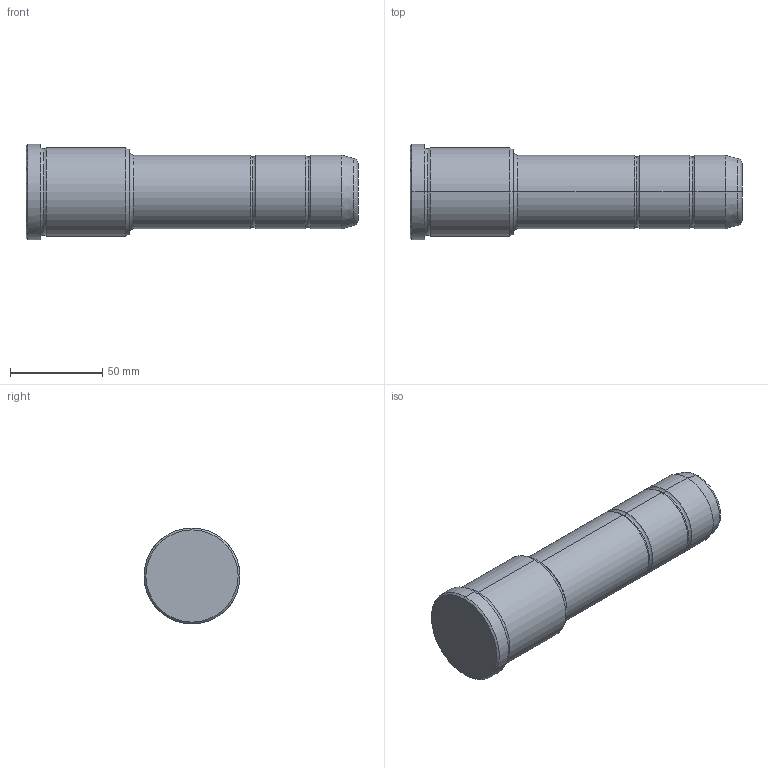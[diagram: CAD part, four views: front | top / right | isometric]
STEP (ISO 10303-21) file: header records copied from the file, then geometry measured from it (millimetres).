
FILE_DESCRIPTION(('CATIA V5 STEP Exchange'),'2;1');
FILE_NAME('C:\Users\Utente\Desktop\IO LAVORO\3D X SITO CF\X SITO\PLASTICA\351\351-40X56X180.stp','2021-10-28T18:31:35+00:00',('none'),('none'),'CATIA Version 5 Release 20 GA (IN-10)','CATIA V5 STEP AP203','none');
FILE_SCHEMA(('CONFIG_CONTROL_DESIGN'));
Length unit declared in the file: millimetre
Products named in the file (1): 351-40X56X180
Bounding box: 180 x 52 x 52 mm (x, y, z)
Volume: 257487.6 mm3; surface area: 27822.8 mm2
Topology: 1 solids, 1 shells, 36 faces, 102 edges, 70 vertices
Faces by surface type: torus 16, cylinder 10, cone 6, plane 4
Entity records: 1292 total; most frequent: CARTESIAN_POINT 321, ORIENTED_EDGE 204, DIRECTION 166, AXIS2_PLACEMENT_3D 115, EDGE_CURVE 102, CIRCLE 78, VERTEX_POINT 70, EDGE_LOOP 38
